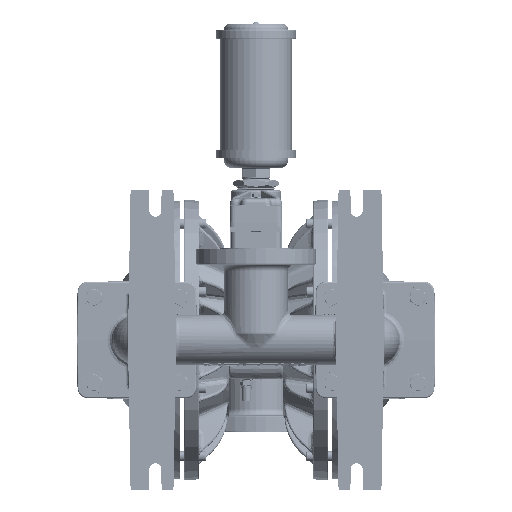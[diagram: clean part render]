
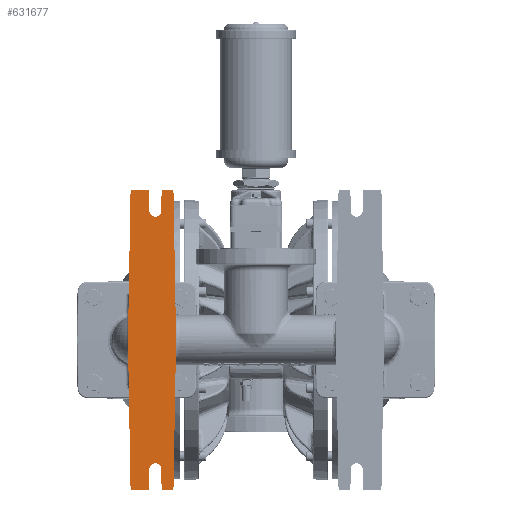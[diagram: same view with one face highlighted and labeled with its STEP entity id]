
A CAD part, front view. The second image highlights one B-rep face of the part: STEP entity #631677.
In plain terms, the highlighted planar face has unit normal (0, -1, 0).
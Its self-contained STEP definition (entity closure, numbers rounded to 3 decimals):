
#182512=DIRECTION('',(0.017,0.,1.));
#182513=VECTOR('',#182512,7.392);
#182514=CARTESIAN_POINT('',(-6.36,-14.68,0.));
#182515=LINE('',#182514,#182513);
#182798=DIRECTION('',(-1.,0.,0.));
#182799=VECTOR('',#182798,0.473);
#182800=CARTESIAN_POINT('',(-4.159,-14.68,7.45));
#182801=LINE('',#182800,#182799);
#182814=CARTESIAN_POINT('',(-4.632,-14.68,7.39));
#182815=DIRECTION('',(0.,1.,0.));
#182816=DIRECTION('',(-1.,0.,0.009));
#182817=AXIS2_PLACEMENT_3D('',#182814,#182815,#182816);
#182824=DIRECTION('',(-0.009,0.,-1.));
#182825=VECTOR('',#182824,0.973);
#182826=CARTESIAN_POINT('',(-4.692,-14.68,7.391));
#182827=LINE('',#182826,#182825);
#182840=CARTESIAN_POINT('',(-5.,-14.68,6.42));
#182841=DIRECTION('',(0.,-1.,0.));
#182842=DIRECTION('',(-1.,0.,-0.009));
#182843=AXIS2_PLACEMENT_3D('',#182840,#182841,#182842);
#183040=DIRECTION('',(-0.009,0.,1.));
#183041=VECTOR('',#183040,0.973);
#183042=CARTESIAN_POINT('',(-5.3,-14.68,6.417));
#183043=LINE('',#183042,#183041);
#183052=CARTESIAN_POINT('',(-5.368,-14.68,7.39));
#183053=DIRECTION('',(0.,1.,0.));
#183054=DIRECTION('',(0.,0.,1.));
#183055=AXIS2_PLACEMENT_3D('',#183052,#183053,#183054);
#183062=DIRECTION('',(-1.,0.,0.));
#183063=VECTOR('',#183062,0.803);
#183064=CARTESIAN_POINT('',(-5.368,-14.68,7.45));
#183065=LINE('',#183064,#183063);
#183078=CARTESIAN_POINT('',(-6.171,-14.68,7.39));
#183079=DIRECTION('',(0.,-1.,0.));
#183080=DIRECTION('',(0.,0.,1.));
#183081=AXIS2_PLACEMENT_3D('',#183078,#183079,#183080);
#183133=CARTESIAN_POINT('',(-4.159,-14.68,7.39));
#183134=DIRECTION('',(0.,1.,0.));
#183135=DIRECTION('',(0.,0.,1.));
#183136=AXIS2_PLACEMENT_3D('',#183133,#183134,#183135);
#183143=DIRECTION('',(-0.017,0.,1.));
#183144=VECTOR('',#183143,7.392);
#183145=CARTESIAN_POINT('',(-3.97,-14.68,0.));
#183146=LINE('',#183145,#183144);
#183286=DIRECTION('',(-0.017,0.,-1.));
#183287=VECTOR('',#183286,7.392);
#183288=CARTESIAN_POINT('',(-3.97,-14.68,0.));
#183289=LINE('',#183288,#183287);
#186158=DIRECTION('',(0.017,0.,-1.));
#186159=VECTOR('',#186158,7.392);
#186160=CARTESIAN_POINT('',(-6.36,-14.68,0.));
#186161=LINE('',#186160,#186159);
#186440=CARTESIAN_POINT('',(-6.171,-14.68,-7.39));
#186441=DIRECTION('',(0.,1.,0.));
#186442=DIRECTION('',(0.,0.,-1.));
#186443=AXIS2_PLACEMENT_3D('',#186440,#186441,#186442);
#186450=DIRECTION('',(1.,0.,0.));
#186451=VECTOR('',#186450,0.803);
#186452=CARTESIAN_POINT('',(-6.171,-14.68,-7.45));
#186453=LINE('',#186452,#186451);
#186466=CARTESIAN_POINT('',(-5.368,-14.68,-7.39));
#186467=DIRECTION('',(0.,1.,0.));
#186468=DIRECTION('',(1.,0.,-0.009));
#186469=AXIS2_PLACEMENT_3D('',#186466,#186467,#186468);
#186476=DIRECTION('',(0.009,0.,1.));
#186477=VECTOR('',#186476,0.973);
#186478=CARTESIAN_POINT('',(-5.308,-14.68,-7.391));
#186479=LINE('',#186478,#186477);
#186492=CARTESIAN_POINT('',(-5.,-14.68,-6.42));
#186493=DIRECTION('',(0.,-1.,0.));
#186494=DIRECTION('',(1.,0.,0.009));
#186495=AXIS2_PLACEMENT_3D('',#186492,#186493,#186494);
#186692=DIRECTION('',(0.009,0.,-1.));
#186693=VECTOR('',#186692,0.973);
#186694=CARTESIAN_POINT('',(-4.7,-14.68,-6.417));
#186695=LINE('',#186694,#186693);
#186704=CARTESIAN_POINT('',(-4.632,-14.68,-7.39));
#186705=DIRECTION('',(0.,1.,0.));
#186706=DIRECTION('',(0.,0.,-1.));
#186707=AXIS2_PLACEMENT_3D('',#186704,#186705,#186706);
#186714=DIRECTION('',(1.,0.,0.));
#186715=VECTOR('',#186714,0.473);
#186716=CARTESIAN_POINT('',(-4.632,-14.68,-7.45));
#186717=LINE('',#186716,#186715);
#186730=CARTESIAN_POINT('',(-4.159,-14.68,-7.39));
#186731=DIRECTION('',(0.,-1.,0.));
#186732=DIRECTION('',(0.,0.,-1.));
#186733=AXIS2_PLACEMENT_3D('',#186730,#186731,#186732);
#343358=CARTESIAN_POINT('',(-4.159,-14.68,7.45));
#343359=CARTESIAN_POINT('',(-4.632,-14.68,7.45));
#343360=VERTEX_POINT('',#343358);
#343361=VERTEX_POINT('',#343359);
#343362=CARTESIAN_POINT('',(-5.3,-14.68,6.417));
#343363=CARTESIAN_POINT('',(-4.7,-14.68,6.417));
#343364=VERTEX_POINT('',#343362);
#343365=VERTEX_POINT('',#343363);
#343366=CARTESIAN_POINT('',(-5.368,-14.68,7.45));
#343367=CARTESIAN_POINT('',(-6.171,-14.68,7.45));
#343368=VERTEX_POINT('',#343366);
#343369=VERTEX_POINT('',#343367);
#343370=CARTESIAN_POINT('',(-6.171,-14.68,-7.45));
#343371=CARTESIAN_POINT('',(-5.368,-14.68,-7.45));
#343372=VERTEX_POINT('',#343370);
#343373=VERTEX_POINT('',#343371);
#343374=CARTESIAN_POINT('',(-4.7,-14.68,-6.417));
#343375=CARTESIAN_POINT('',(-5.3,-14.68,-6.417));
#343376=VERTEX_POINT('',#343374);
#343377=VERTEX_POINT('',#343375);
#343378=CARTESIAN_POINT('',(-4.632,-14.68,-7.45));
#343379=CARTESIAN_POINT('',(-4.159,-14.68,-7.45));
#343380=VERTEX_POINT('',#343378);
#343381=VERTEX_POINT('',#343379);
#343382=CARTESIAN_POINT('',(-4.692,-14.68,7.391));
#343383=VERTEX_POINT('',#343382);
#343384=CARTESIAN_POINT('',(-5.308,-14.68,7.391));
#343385=VERTEX_POINT('',#343384);
#343386=CARTESIAN_POINT('',(-5.308,-14.68,-7.391));
#343387=VERTEX_POINT('',#343386);
#343388=CARTESIAN_POINT('',(-4.692,-14.68,-7.391));
#343389=VERTEX_POINT('',#343388);
#343422=CARTESIAN_POINT('',(-6.36,-14.68,0.));
#343423=CARTESIAN_POINT('',(-6.231,-14.68,7.391));
#343424=VERTEX_POINT('',#343422);
#343425=VERTEX_POINT('',#343423);
#343430=CARTESIAN_POINT('',(-6.231,-14.68,-7.391));
#343431=VERTEX_POINT('',#343430);
#343434=CARTESIAN_POINT('',(-3.97,-14.68,0.));
#343435=CARTESIAN_POINT('',(-4.099,-14.68,-7.391));
#343436=VERTEX_POINT('',#343434);
#343437=VERTEX_POINT('',#343435);
#343442=CARTESIAN_POINT('',(-4.099,-14.68,7.391));
#343443=VERTEX_POINT('',#343442);
#631627=CARTESIAN_POINT('',(-7.5,-14.68,8.94));
#631628=DIRECTION('',(0.,1.,0.));
#631629=DIRECTION('',(1.,0.,0.));
#631630=AXIS2_PLACEMENT_3D('',#631627,#631628,#631629);
#631631=PLANE('',#631630);
#631633=ORIENTED_EDGE('',*,*,#631632,.F.);
#631635=ORIENTED_EDGE('',*,*,#631634,.T.);
#631637=ORIENTED_EDGE('',*,*,#631636,.F.);
#631639=ORIENTED_EDGE('',*,*,#631638,.T.);
#631641=ORIENTED_EDGE('',*,*,#631640,.F.);
#631643=ORIENTED_EDGE('',*,*,#631642,.F.);
#631645=ORIENTED_EDGE('',*,*,#631644,.T.);
#631647=ORIENTED_EDGE('',*,*,#631646,.F.);
#631649=ORIENTED_EDGE('',*,*,#631648,.T.);
#631651=ORIENTED_EDGE('',*,*,#631650,.F.);
#631653=ORIENTED_EDGE('',*,*,#631652,.T.);
#631655=ORIENTED_EDGE('',*,*,#631654,.F.);
#631657=ORIENTED_EDGE('',*,*,#631656,.T.);
#631659=ORIENTED_EDGE('',*,*,#631658,.F.);
#631660=ORIENTED_EDGE('',*,*,#631605,.T.);
#631662=ORIENTED_EDGE('',*,*,#631661,.F.);
#631664=ORIENTED_EDGE('',*,*,#631663,.F.);
#631666=ORIENTED_EDGE('',*,*,#631665,.T.);
#631668=ORIENTED_EDGE('',*,*,#631667,.F.);
#631670=ORIENTED_EDGE('',*,*,#631669,.T.);
#631672=ORIENTED_EDGE('',*,*,#631671,.F.);
#631674=ORIENTED_EDGE('',*,*,#631673,.T.);
#631675=EDGE_LOOP('',(#631633,#631635,#631637,#631639,#631641,#631643,#631645,
#631647,#631649,#631651,#631653,#631655,#631657,#631659,#631660,#631662,#631664,
#631666,#631668,#631670,#631672,#631674));
#631676=FACE_OUTER_BOUND('',#631675,.F.);
#631677=ADVANCED_FACE('',(#631676),#631631,.F.);
#182818=CIRCLE('',#182817,0.06);
#182844=CIRCLE('',#182843,0.3);
#183056=CIRCLE('',#183055,0.06);
#183082=CIRCLE('',#183081,0.06);
#183137=CIRCLE('',#183136,0.06);
#186444=CIRCLE('',#186443,0.06);
#186470=CIRCLE('',#186469,0.06);
#186496=CIRCLE('',#186495,0.3);
#186708=CIRCLE('',#186707,0.06);
#186734=CIRCLE('',#186733,0.06);
#631605=EDGE_CURVE('',#343424,#343425,#182515,.T.);
#631632=EDGE_CURVE('',#343360,#343361,#182801,.T.);
#631634=EDGE_CURVE('',#343360,#343443,#183137,.T.);
#631636=EDGE_CURVE('',#343436,#343443,#183146,.T.);
#631638=EDGE_CURVE('',#343436,#343437,#183289,.T.);
#631640=EDGE_CURVE('',#343381,#343437,#186734,.T.);
#631642=EDGE_CURVE('',#343380,#343381,#186717,.T.);
#631644=EDGE_CURVE('',#343380,#343389,#186708,.T.);
#631646=EDGE_CURVE('',#343376,#343389,#186695,.T.);
#631648=EDGE_CURVE('',#343376,#343377,#186496,.T.);
#631650=EDGE_CURVE('',#343387,#343377,#186479,.T.);
#631652=EDGE_CURVE('',#343387,#343373,#186470,.T.);
#631654=EDGE_CURVE('',#343372,#343373,#186453,.T.);
#631656=EDGE_CURVE('',#343372,#343431,#186444,.T.);
#631658=EDGE_CURVE('',#343424,#343431,#186161,.T.);
#631661=EDGE_CURVE('',#343369,#343425,#183082,.T.);
#631663=EDGE_CURVE('',#343368,#343369,#183065,.T.);
#631665=EDGE_CURVE('',#343368,#343385,#183056,.T.);
#631667=EDGE_CURVE('',#343364,#343385,#183043,.T.);
#631669=EDGE_CURVE('',#343364,#343365,#182844,.T.);
#631671=EDGE_CURVE('',#343383,#343365,#182827,.T.);
#631673=EDGE_CURVE('',#343383,#343361,#182818,.T.);
